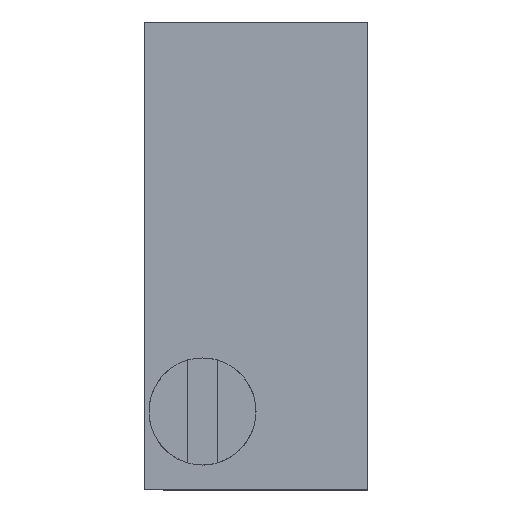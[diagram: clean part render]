
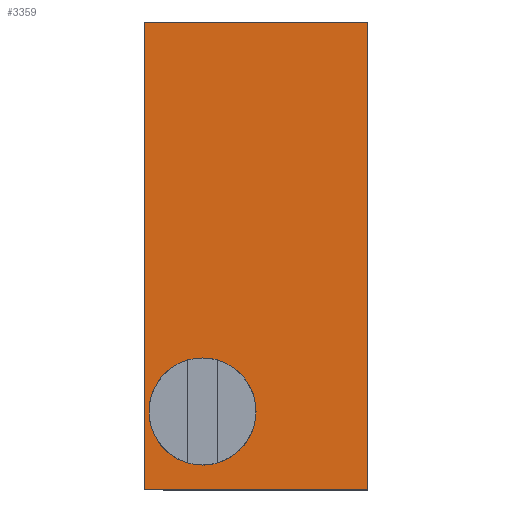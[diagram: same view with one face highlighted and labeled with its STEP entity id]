
A CAD part, top view. The second image highlights one B-rep face of the part: STEP entity #3359.
In plain terms, the highlighted planar face has unit normal (0, 0, 1).
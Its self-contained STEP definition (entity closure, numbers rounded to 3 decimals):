
#46=CIRCLE('',#3511,1.1);
#385=ORIENTED_EDGE('',*,*,#1103,.F.);
#386=ORIENTED_EDGE('',*,*,#1104,.F.);
#387=ORIENTED_EDGE('',*,*,#1099,.F.);
#388=ORIENTED_EDGE('',*,*,#1105,.T.);
#389=ORIENTED_EDGE('',*,*,#987,.T.);
#987=EDGE_CURVE('',#1349,#1347,#1591,.T.);
#1099=EDGE_CURVE('',#1457,#1458,#1611,.T.);
#1103=EDGE_CURVE('',#1460,#1460,#46,.T.);
#1104=EDGE_CURVE('',#1458,#1347,#1615,.T.);
#1105=EDGE_CURVE('',#1457,#1349,#1616,.T.);
#1347=VERTEX_POINT('',#4055);
#1349=VERTEX_POINT('',#4058);
#1457=VERTEX_POINT('',#4641);
#1458=VERTEX_POINT('',#4643);
#1460=VERTEX_POINT('',#4650);
#1591=LINE('',#4057,#1733);
#1611=LINE('',#4642,#1753);
#1615=LINE('',#4651,#1757);
#1616=LINE('',#4652,#1758);
#1733=VECTOR('',#3643,1000.);
#1753=VECTOR('',#3675,1000.);
#1757=VECTOR('',#3683,1000.);
#1758=VECTOR('',#3684,1000.);
#1893=EDGE_LOOP('',(#385));
#1894=EDGE_LOOP('',(#386,#387,#388,#389));
#2063=FACE_BOUND('',#1893,.T.);
#2064=FACE_BOUND('',#1894,.T.);
#2220=PLANE('',#3510);
#3359=ADVANCED_FACE('',(#2063,#2064),#2220,.T.);
#3510=AXIS2_PLACEMENT_3D('',#4648,#3679,#3680);
#3511=AXIS2_PLACEMENT_3D('',#4649,#3681,#3682);
#3643=DIRECTION('',(0.,-1.,0.));
#3675=DIRECTION('',(0.,-1.,0.));
#3679=DIRECTION('',(0.,0.,1.));
#3680=DIRECTION('',(1.,0.,0.));
#3681=DIRECTION('',(0.,0.,1.));
#3682=DIRECTION('',(1.,0.,0.));
#3683=DIRECTION('',(-1.,0.,0.));
#3684=DIRECTION('',(-1.,0.,0.));
#4055=CARTESIAN_POINT('',(-2.3,0.,4.85));
#4057=CARTESIAN_POINT('',(-2.3,9.6,4.85));
#4058=CARTESIAN_POINT('',(-2.3,9.6,4.85));
#4641=CARTESIAN_POINT('',(2.3,9.6,4.85));
#4642=CARTESIAN_POINT('',(2.3,9.6,4.85));
#4643=CARTESIAN_POINT('',(2.3,0.,4.85));
#4648=CARTESIAN_POINT('',(2.3,9.6,4.85));
#4649=CARTESIAN_POINT('',(-1.1,1.595,4.85));
#4650=CARTESIAN_POINT('',(0.,1.595,4.85));
#4651=CARTESIAN_POINT('',(2.3,0.,4.85));
#4652=CARTESIAN_POINT('',(2.3,9.6,4.85));
